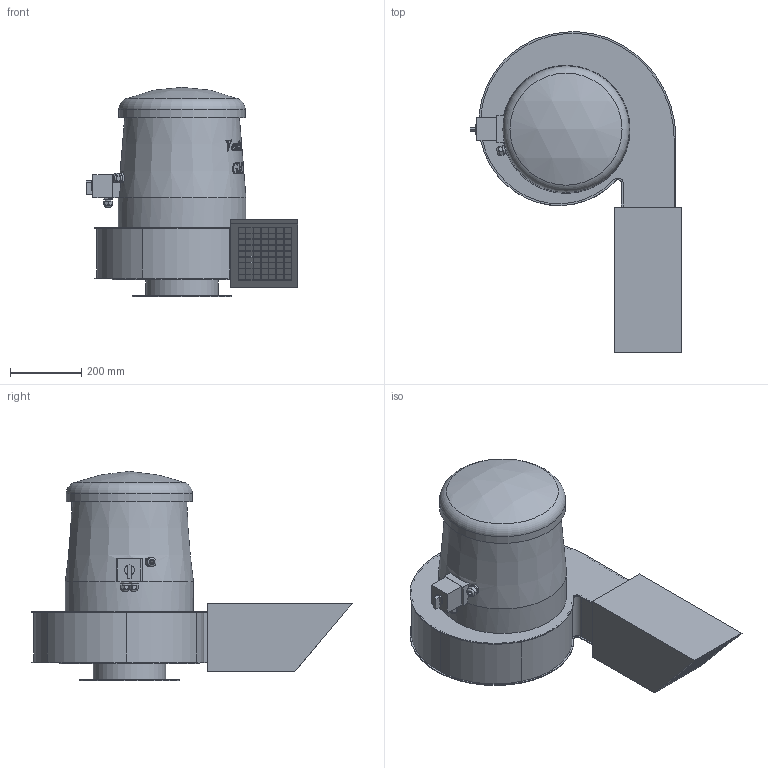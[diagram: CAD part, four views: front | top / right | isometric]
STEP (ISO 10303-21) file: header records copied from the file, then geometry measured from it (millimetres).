
FILE_DESCRIPTION(/* description */ (''),/* implementation_level */ '2;1');
FILE_NAME(/* name */ 'E:\Mariusz\Modele uproszczone\GMT-R\GMT-R_400 43552290\GMT-R_400 43552290.stp',/* time_stamp */ '2018-06-22T10:24:48+02:00',/* author */ ('M.Janczarek'),/* organization */ (''),/* preprocessor_version */ 'ST-DEVELOPER v16.5',/* originating_system */ 'Autodesk Inventor 2017',/* authorisation */ '');
FILE_SCHEMA (('AUTOMOTIVE_DESIGN { 1 0 10303 214 3 1 1 }'));
Length unit declared in the file: millimetre
Products named in the file (1): GMT-R_300 43552285
Bounding box: 596.25 x 900.74 x 588.5 mm (x, y, z)
Volume: 79087359.2 mm3; surface area: 1586102.7 mm2
Topology: 2 solids, 2 shells, 1091 faces, 2883 edges, 1916 vertices
Faces by surface type: plane 528, bspline 453, cylinder 65, cone 42, torus 2, sphere 1
Full cylindrical faces by diameter (mm): 8 x8, 9.427 x1, 11.5 x2, 13.5 x2, 18 x2, 22.3 x1, 25 x1, 28 x1, 200 x1, 204 x1, 280 x1, 355 x1, 360 x1, 393 x1
Entity records: 41280 total; most frequent: CARTESIAN_POINT 16193, ORIENTED_EDGE 5688, DIRECTION 3677, EDGE_CURVE 2844, VERTEX_POINT 1907, LINE 1737, VECTOR 1737, EDGE_LOOP 1257
